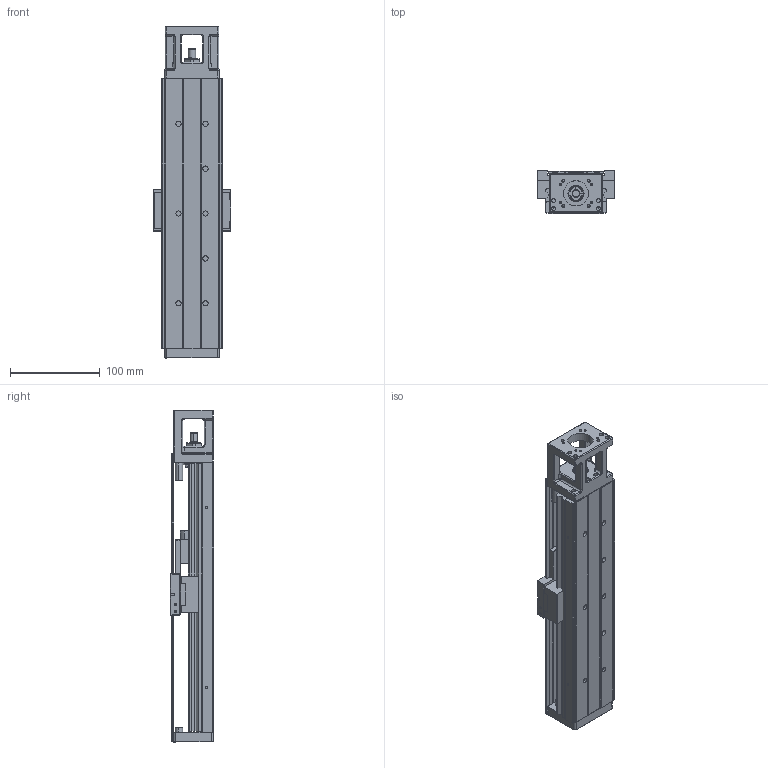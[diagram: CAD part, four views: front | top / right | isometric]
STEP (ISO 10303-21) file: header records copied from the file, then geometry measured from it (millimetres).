
FILE_DESCRIPTION (( 'STEP AP203' ), '1' );
FILE_NAME ('hkk60-300a1f0c.STEP', '2019-10-31T02:51:14', ( '微软用户' ), ( '微软中国' ), 'SwSTEP 2.0', 'SolidWorks 2016', '' );
FILE_SCHEMA (( 'CONFIG_CONTROL_DESIGN' ));
Length unit declared in the file: millimetre
Products named in the file (3): hkk60賑怢_4; hkk60-300a1f0c; hkk60-300_4
Assembly tree (2 placements, depth 2):
  hkk60-300a1f0c
    hkk60-300_4
    hkk60賑怢_4
Bounding box: 86 x 48 x 370 mm (x, y, z)
Volume: 568584.4 mm3; surface area: 217259.7 mm2
Topology: 43 solids, 43 shells, 1489 faces, 3847 edges, 2373 vertices
Faces by surface type: cylinder 542, plane 489, cone 225, bspline 85, sphere 76, torus 72
Entity records: 62737 total; most frequent: CARTESIAN_POINT 27631, ORIENTED_EDGE 7302, DIRECTION 7038, EDGE_CURVE 3651, AXIS2_PLACEMENT_3D 2609, VERTEX_POINT 2325, VECTOR 1820, LINE 1820
